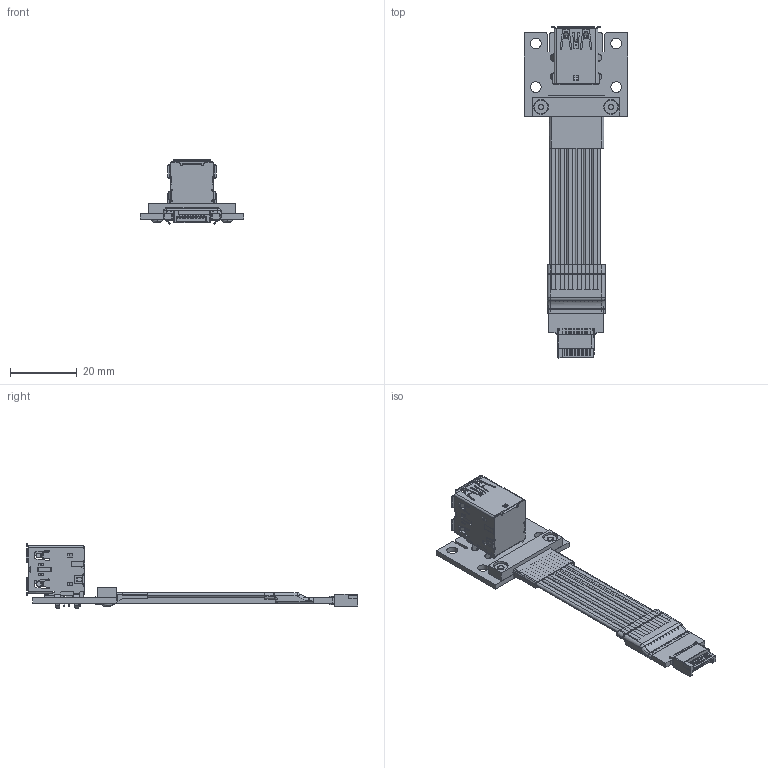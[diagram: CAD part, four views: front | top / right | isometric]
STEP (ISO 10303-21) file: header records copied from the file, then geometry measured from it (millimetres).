
FILE_DESCRIPTION(('Open CASCADE Model'),'2;1');
FILE_NAME('Open CASCADE Shape Model','2023-07-17T16:21:25',('Author'),( 'Open CASCADE'),'Open CASCADE STEP processor 6.8','Open CASCADE 6.8' ,'Unknown');
FILE_SCHEMA(('AUTOMOTIVE_DESIGN { 1 0 10303 214 1 1 1 1 }'));
Length unit declared in the file: millimetre
Products named in the file (17): PCB; Board; Open CASCADE STEP translator 6.8 2.1.1; Designator13; KEY-B__20230518(2); Designator15; usb3x2; Free-Models; UF5D_HST_20230510_RGB3289650; DP5A-8T_窪伎_4.0; KEY-B_HST__180°_20230518（2）; R1S_4.0_DP; Free-Models.step; R1SPAD4-82.step; G0033_RGB9411503; Hexagon_nut_ISO_4032_(DIN_934)_-_M2_RGB9411503
Assembly tree (19 placements, depth 5):
  PCB
    Board
      Open CASCADE STEP translator 6.8 2.1.1
    Designator13
      KEY-B__20230518(2)
    Designator15
      usb3x2  x2
      usb3x2
    Free-Models
      UF5D_HST_20230510_RGB3289650
      DP5A-8T_窪伎_4.0
      KEY-B_HST__180°_20230518（2）
      R1S_4.0_DP
        Free-Models.step
          R1SPAD4-82.step
      G0033_RGB9411503  x2
      Hexagon_nut_ISO_4032_(DIN_934)_-_M2_RGB9411503  x2
Bounding box: 31.01 x 99.11 x 19.4 mm (x, y, z)
Volume: 10317.2 mm3; surface area: 24694.5 mm2
Topology: 133 solids, 133 shells, 4475 faces, 11886 edges, 7724 vertices
Faces by surface type: plane 2797, cylinder 1378, bspline 156, torus 108, cone 24, revolution 12
Full cylindrical faces by diameter (mm): 0.58 x48, 0.7 x18, 0.8 x2, 2.2 x2, 2.3 x4, 3.2 x4
Entity records: 136648 total; most frequent: CARTESIAN_POINT 27438, ORIENTED_EDGE 17932, DIRECTION 15481, EDGE_CURVE 8966, VERTEX_POINT 5837, LINE 5819, VECTOR 5819, AXIS2_PLACEMENT_3D 4826
